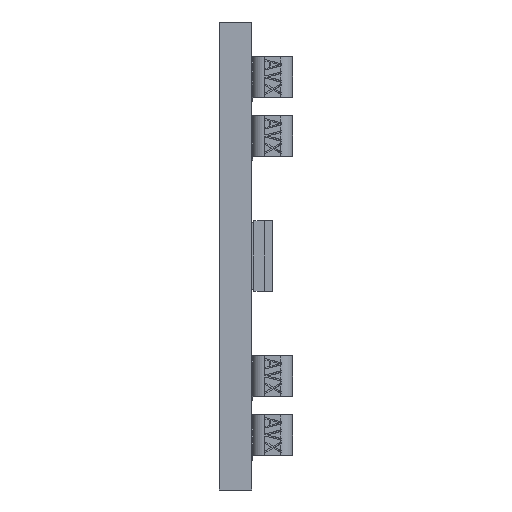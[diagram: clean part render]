
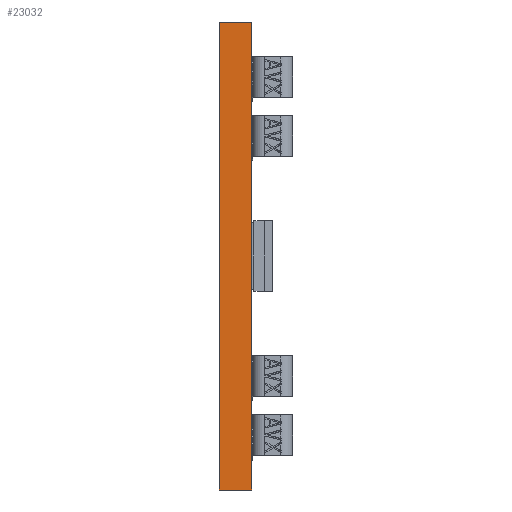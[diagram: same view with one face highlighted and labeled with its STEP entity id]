
A CAD part, left-side view. The second image highlights one B-rep face of the part: STEP entity #23032.
In plain terms, the highlighted planar face has unit normal (-1, 0, 0).
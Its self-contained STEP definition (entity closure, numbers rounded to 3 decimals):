
#2244=ORIENTED_EDGE('',*,*,#5941,.T.);
#2245=ORIENTED_EDGE('',*,*,#6577,.F.);
#2246=ORIENTED_EDGE('',*,*,#6546,.F.);
#2247=ORIENTED_EDGE('',*,*,#6578,.T.);
#5941=EDGE_CURVE('',#8426,#8425,#10062,.T.);
#6546=EDGE_CURVE('',#8834,#8835,#10202,.T.);
#6577=EDGE_CURVE('',#8835,#8425,#10225,.T.);
#6578=EDGE_CURVE('',#8834,#8426,#10226,.T.);
#8425=VERTEX_POINT('',#29161);
#8426=VERTEX_POINT('',#29163);
#8834=VERTEX_POINT('',#31928);
#8835=VERTEX_POINT('',#31930);
#10062=LINE('',#29162,#11822);
#10202=LINE('',#31929,#11962);
#10225=LINE('',#31994,#11985);
#10226=LINE('',#31996,#11986);
#11822=VECTOR('',#24960,1000.);
#11962=VECTOR('',#25550,1000.);
#11985=VECTOR('',#25623,1000.);
#11986=VECTOR('',#25626,1000.);
#13799=EDGE_LOOP('',(#2244,#2245,#2246,#2247));
#14825=FACE_BOUND('',#13799,.T.);
#15737=PLANE('',#23963);
#23032=ADVANCED_FACE('',(#14825),#15737,.F.);
#23963=AXIS2_PLACEMENT_3D('',#31995,#25624,#25625);
#24960=DIRECTION('',(0.,0.,1.));
#25550=DIRECTION('',(0.,0.,1.));
#25623=DIRECTION('',(0.,-1.,0.));
#25624=DIRECTION('',(1.,0.,0.));
#25625=DIRECTION('',(0.,0.,-1.));
#25626=DIRECTION('',(0.,-1.,0.));
#29161=CARTESIAN_POINT('',(-24.,0.,11.5));
#29162=CARTESIAN_POINT('',(-24.,0.,11.5));
#29163=CARTESIAN_POINT('',(-24.,0.,-11.5));
#31928=CARTESIAN_POINT('',(-24.,1.6,-11.5));
#31929=CARTESIAN_POINT('',(-24.,1.6,11.5));
#31930=CARTESIAN_POINT('',(-24.,1.6,11.5));
#31994=CARTESIAN_POINT('',(-24.,1.6,11.5));
#31995=CARTESIAN_POINT('',(-24.,1.6,11.5));
#31996=CARTESIAN_POINT('',(-24.,1.6,-11.5));
